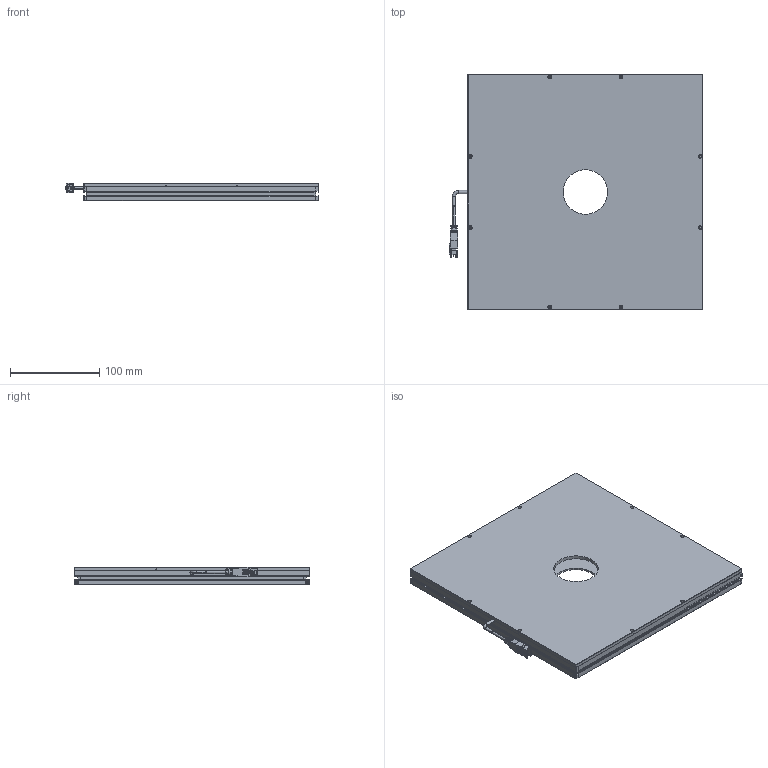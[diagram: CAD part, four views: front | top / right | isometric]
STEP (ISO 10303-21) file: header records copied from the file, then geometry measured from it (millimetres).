
FILE_DESCRIPTION (( 'STEP AP203' ), '1' );
FILE_NAME ('CRT-2KFLD250250Y50-¼òÒ×3DÍ¼.STEP', '2021-11-24T06:16:33', ( 'Admin' ), ( '' ), 'SwSTEP 2.0', 'SolidWorks 2018', '' );
FILE_SCHEMA (( 'CONFIG_CONTROL_DESIGN' ));
Length unit declared in the file: millimetre
Products named in the file (1): CRT-2KFLD250250Y50-潠眢3D芞
Bounding box: 284.95 x 264 x 20 mm (x, y, z)
Surface area: 361009 mm2 (no closed solid volume)
Topology: 0 solids, 11 shells, 309 faces, 1067 edges, 741 vertices
Faces by surface type: plane 177, cylinder 110, cone 11, bspline 10, torus 1
Entity records: 11923 total; most frequent: CARTESIAN_POINT 2759, DIRECTION 1909, ORIENTED_EDGE 1688, EDGE_CURVE 1063, VERTEX_POINT 741, VECTOR 691, LINE 691, AXIS2_PLACEMENT_3D 609
